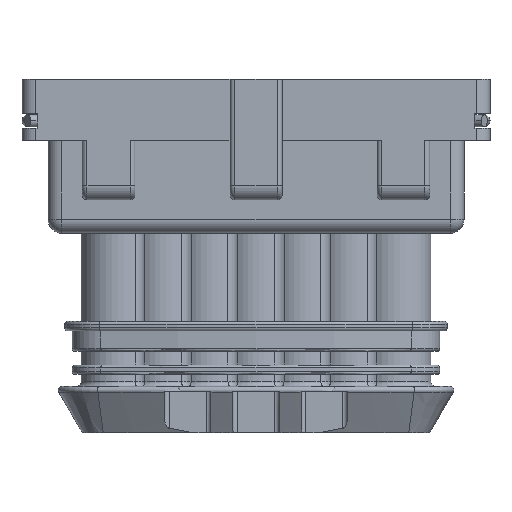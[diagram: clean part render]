
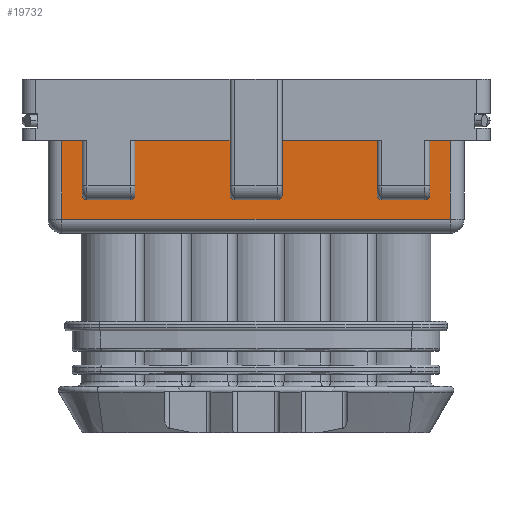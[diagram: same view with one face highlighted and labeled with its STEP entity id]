
A CAD part, front view. The second image highlights one B-rep face of the part: STEP entity #19732.
In plain terms, the highlighted planar face has unit normal (0, -1, 0).
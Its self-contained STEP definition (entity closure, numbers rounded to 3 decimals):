
#752=CARTESIAN_POINT('',(-2.3,-7.3,-12.5));
#753=DIRECTION('',(0.,1.,0.));
#754=DIRECTION('',(0.,0.,-1.));
#755=AXIS2_PLACEMENT_3D('',#752,#753,#754);
#1206=DIRECTION('',(1.,0.,0.));
#1207=VECTOR('',#1206,10.25);
#1208=CARTESIAN_POINT('',(-13.05,-7.3,-6.6));
#1209=LINE('',#1208,#1207);
#1227=DIRECTION('',(1.,0.,0.));
#1228=VECTOR('',#1227,10.25);
#1229=CARTESIAN_POINT('',(2.8,-7.3,-6.6));
#1230=LINE('',#1229,#1228);
#1322=DIRECTION('',(1.,0.,0.));
#1323=VECTOR('',#1322,2.2);
#1324=CARTESIAN_POINT('',(-20.9,-7.3,-6.6));
#1325=LINE('',#1324,#1323);
#1549=DIRECTION('',(1.,0.,0.));
#1550=VECTOR('',#1549,2.2);
#1551=CARTESIAN_POINT('',(18.7,-7.3,-6.6));
#1552=LINE('',#1551,#1550);
#1675=CARTESIAN_POINT('',(-13.55,-7.3,-12.5));
#1676=DIRECTION('',(0.,1.,0.));
#1677=DIRECTION('',(1.,0.,0.));
#1678=AXIS2_PLACEMENT_3D('',#1675,#1676,#1677);
#1683=DIRECTION('',(1.,0.,0.));
#1684=VECTOR('',#1683,4.65);
#1685=CARTESIAN_POINT('',(13.55,-7.3,-13.));
#1686=LINE('',#1685,#1684);
#1690=DIRECTION('',(0.,0.,-1.));
#1691=VECTOR('',#1690,5.9);
#1692=CARTESIAN_POINT('',(18.7,-7.3,-6.6));
#1693=LINE('',#1692,#1691);
#1697=DIRECTION('',(-1.,0.,0.));
#1698=VECTOR('',#1697,41.8);
#1699=CARTESIAN_POINT('',(20.9,-7.3,-15.1));
#1700=LINE('',#1699,#1698);
#1704=DIRECTION('',(0.,0.,1.));
#1705=VECTOR('',#1704,8.5);
#1706=CARTESIAN_POINT('',(-20.9,-7.3,-15.1));
#1707=LINE('',#1706,#1705);
#1711=DIRECTION('',(0.,0.,-1.));
#1712=VECTOR('',#1711,5.9);
#1713=CARTESIAN_POINT('',(-18.7,-7.3,-6.6));
#1714=LINE('',#1713,#1712);
#1718=DIRECTION('',(1.,0.,0.));
#1719=VECTOR('',#1718,4.65);
#1720=CARTESIAN_POINT('',(-18.2,-7.3,-13.));
#1721=LINE('',#1720,#1719);
#1725=DIRECTION('',(0.,0.,-1.));
#1726=VECTOR('',#1725,5.9);
#1727=CARTESIAN_POINT('',(-13.05,-7.3,-6.6));
#1728=LINE('',#1727,#1726);
#1732=DIRECTION('',(0.,0.,-1.));
#1733=VECTOR('',#1732,5.9);
#1734=CARTESIAN_POINT('',(-2.8,-7.3,-6.6));
#1735=LINE('',#1734,#1733);
#1739=DIRECTION('',(1.,0.,0.));
#1740=VECTOR('',#1739,4.6);
#1741=CARTESIAN_POINT('',(-2.3,-7.3,-13.));
#1742=LINE('',#1741,#1740);
#1746=DIRECTION('',(0.,0.,-1.));
#1747=VECTOR('',#1746,5.9);
#1748=CARTESIAN_POINT('',(2.8,-7.3,-6.6));
#1749=LINE('',#1748,#1747);
#1753=DIRECTION('',(0.,0.,-1.));
#1754=VECTOR('',#1753,5.9);
#1755=CARTESIAN_POINT('',(13.05,-7.3,-6.6));
#1756=LINE('',#1755,#1754);
#1760=CARTESIAN_POINT('',(18.2,-7.3,-12.5));
#1761=DIRECTION('',(0.,1.,0.));
#1762=DIRECTION('',(1.,0.,0.));
#1763=AXIS2_PLACEMENT_3D('',#1760,#1761,#1762);
#1800=CARTESIAN_POINT('',(13.55,-7.3,-12.5));
#1801=DIRECTION('',(0.,1.,0.));
#1802=DIRECTION('',(0.,0.,-1.));
#1803=AXIS2_PLACEMENT_3D('',#1800,#1801,#1802);
#10431=DIRECTION('',(0.,0.,1.));
#10432=VECTOR('',#10431,8.5);
#10433=CARTESIAN_POINT('',(20.9,-7.3,-15.1));
#10434=LINE('',#10433,#10432);
#16099=CARTESIAN_POINT('',(2.3,-7.3,-12.5));
#16100=DIRECTION('',(0.,1.,0.));
#16101=DIRECTION('',(1.,0.,0.));
#16102=AXIS2_PLACEMENT_3D('',#16099,#16100,#16101);
#16181=CARTESIAN_POINT('',(-18.2,-7.3,-12.5));
#16182=DIRECTION('',(0.,1.,0.));
#16183=DIRECTION('',(0.,0.,-1.));
#16184=AXIS2_PLACEMENT_3D('',#16181,#16182,#16183);
#16316=CARTESIAN_POINT('',(-20.9,-7.3,-6.6));
#16318=VERTEX_POINT('',#16316);
#16319=CARTESIAN_POINT('',(20.9,-7.3,-6.6));
#16321=VERTEX_POINT('',#16319);
#16367=CARTESIAN_POINT('',(-18.7,-7.3,-6.6));
#16368=VERTEX_POINT('',#16367);
#16369=CARTESIAN_POINT('',(-13.05,-7.3,-6.6));
#16370=CARTESIAN_POINT('',(-2.8,-7.3,-6.6));
#16371=VERTEX_POINT('',#16369);
#16372=VERTEX_POINT('',#16370);
#16373=CARTESIAN_POINT('',(2.8,-7.3,-6.6));
#16374=CARTESIAN_POINT('',(13.05,-7.3,-6.6));
#16375=VERTEX_POINT('',#16373);
#16376=VERTEX_POINT('',#16374);
#16457=CARTESIAN_POINT('',(18.7,-7.3,-6.6));
#16458=VERTEX_POINT('',#16457);
#18184=CARTESIAN_POINT('',(13.55,-7.3,-13.));
#18185=CARTESIAN_POINT('',(13.05,-7.3,-12.5));
#18186=VERTEX_POINT('',#18184);
#18187=VERTEX_POINT('',#18185);
#18242=CARTESIAN_POINT('',(20.9,-7.3,-15.1));
#18243=CARTESIAN_POINT('',(-20.9,-7.3,-15.1));
#18244=VERTEX_POINT('',#18242);
#18245=VERTEX_POINT('',#18243);
#18424=CARTESIAN_POINT('',(-13.05,-7.3,-12.5));
#18425=CARTESIAN_POINT('',(-13.55,-7.3,-13.));
#18426=VERTEX_POINT('',#18424);
#18427=VERTEX_POINT('',#18425);
#18440=CARTESIAN_POINT('',(2.8,-7.3,-12.5));
#18441=CARTESIAN_POINT('',(2.3,-7.3,-13.));
#18442=VERTEX_POINT('',#18440);
#18443=VERTEX_POINT('',#18441);
#18445=CARTESIAN_POINT('',(-18.7,-7.3,-12.5));
#18447=VERTEX_POINT('',#18445);
#18448=CARTESIAN_POINT('',(-18.2,-7.3,-13.));
#18449=VERTEX_POINT('',#18448);
#18456=CARTESIAN_POINT('',(18.2,-7.3,-13.));
#18457=VERTEX_POINT('',#18456);
#18458=CARTESIAN_POINT('',(18.7,-7.3,-12.5));
#18459=VERTEX_POINT('',#18458);
#18472=CARTESIAN_POINT('',(-2.3,-7.3,-13.));
#18473=VERTEX_POINT('',#18472);
#18476=CARTESIAN_POINT('',(-2.8,-7.3,-12.5));
#18477=VERTEX_POINT('',#18476);
#19691=CARTESIAN_POINT('',(-20.9,-7.3,-16.6));
#19692=DIRECTION('',(0.,1.,0.));
#19693=DIRECTION('',(1.,0.,0.));
#19694=AXIS2_PLACEMENT_3D('',#19691,#19692,#19693);
#19695=PLANE('',#19694);
#19696=ORIENTED_EDGE('',*,*,#19200,.T.);
#19698=ORIENTED_EDGE('',*,*,#19697,.F.);
#19700=ORIENTED_EDGE('',*,*,#19699,.F.);
#19701=ORIENTED_EDGE('',*,*,#19603,.T.);
#19703=ORIENTED_EDGE('',*,*,#19702,.F.);
#19705=ORIENTED_EDGE('',*,*,#19704,.T.);
#19707=ORIENTED_EDGE('',*,*,#19706,.T.);
#19708=ORIENTED_EDGE('',*,*,#19533,.T.);
#19710=ORIENTED_EDGE('',*,*,#19709,.T.);
#19712=ORIENTED_EDGE('',*,*,#19711,.F.);
#19713=ORIENTED_EDGE('',*,*,#19188,.T.);
#19714=ORIENTED_EDGE('',*,*,#19685,.F.);
#19715=ORIENTED_EDGE('',*,*,#19642,.F.);
#19716=ORIENTED_EDGE('',*,*,#19475,.T.);
#19718=ORIENTED_EDGE('',*,*,#19717,.T.);
#19719=ORIENTED_EDGE('',*,*,#19138,.F.);
#19720=ORIENTED_EDGE('',*,*,#19218,.T.);
#19722=ORIENTED_EDGE('',*,*,#19721,.F.);
#19724=ORIENTED_EDGE('',*,*,#19723,.F.);
#19725=ORIENTED_EDGE('',*,*,#19491,.T.);
#19727=ORIENTED_EDGE('',*,*,#19726,.T.);
#19729=ORIENTED_EDGE('',*,*,#19728,.F.);
#19730=EDGE_LOOP('',(#19696,#19698,#19700,#19701,#19703,#19705,#19707,#19708,
#19710,#19712,#19713,#19714,#19715,#19716,#19718,#19719,#19720,#19722,#19724,
#19725,#19727,#19729));
#19731=FACE_OUTER_BOUND('',#19730,.F.);
#756=CIRCLE('',#755,0.5);
#1679=CIRCLE('',#1678,0.5);
#1764=CIRCLE('',#1763,0.5);
#1804=CIRCLE('',#1803,0.5);
#16103=CIRCLE('',#16102,0.5);
#16185=CIRCLE('',#16184,0.5);
#19138=EDGE_CURVE('',#18473,#18477,#756,.T.);
#19188=EDGE_CURVE('',#18449,#18427,#1721,.T.);
#19200=EDGE_CURVE('',#18186,#18457,#1686,.T.);
#19218=EDGE_CURVE('',#18473,#18443,#1742,.T.);
#19475=EDGE_CURVE('',#16371,#16372,#1209,.T.);
#19491=EDGE_CURVE('',#16375,#16376,#1230,.T.);
#19533=EDGE_CURVE('',#16318,#16368,#1325,.T.);
#19603=EDGE_CURVE('',#16458,#16321,#1552,.T.);
#19642=EDGE_CURVE('',#16371,#18426,#1728,.T.);
#19685=EDGE_CURVE('',#18426,#18427,#1679,.T.);
#19697=EDGE_CURVE('',#18459,#18457,#1764,.T.);
#19699=EDGE_CURVE('',#16458,#18459,#1693,.T.);
#19702=EDGE_CURVE('',#18244,#16321,#10434,.T.);
#19704=EDGE_CURVE('',#18244,#18245,#1700,.T.);
#19706=EDGE_CURVE('',#18245,#16318,#1707,.T.);
#19709=EDGE_CURVE('',#16368,#18447,#1714,.T.);
#19711=EDGE_CURVE('',#18449,#18447,#16185,.T.);
#19717=EDGE_CURVE('',#16372,#18477,#1735,.T.);
#19721=EDGE_CURVE('',#18442,#18443,#16103,.T.);
#19723=EDGE_CURVE('',#16375,#18442,#1749,.T.);
#19726=EDGE_CURVE('',#16376,#18187,#1756,.T.);
#19728=EDGE_CURVE('',#18186,#18187,#1804,.T.);
#19732=ADVANCED_FACE('',(#19731),#19695,.F.);
